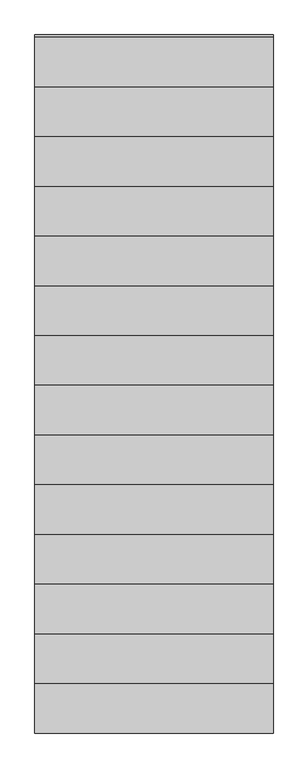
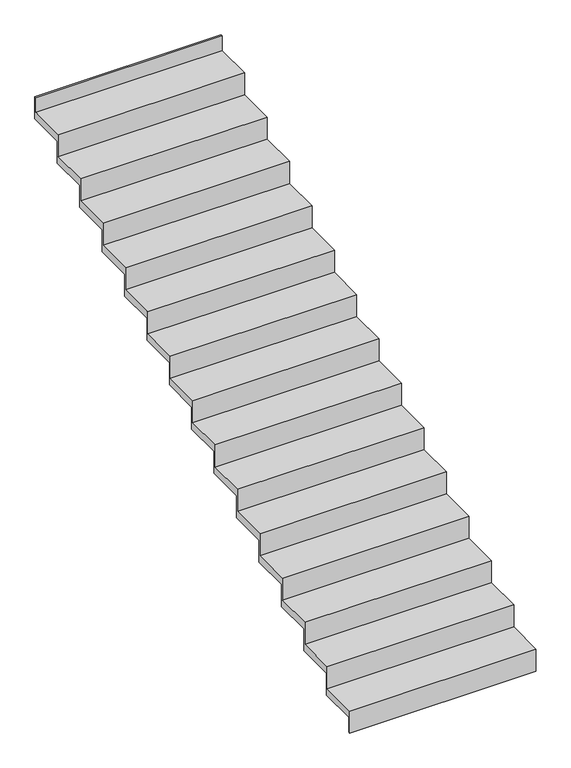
"""IFC4 building model written with IfcOpenShell, lengths in millimetres: stair flight geometry, Run_Stair_Non-Monolithic_50Treadx10Rise_Generic."""

from ifc_helpers import new_model, si_unit, frame, origin, place, context, project, spatial, polyline, outline, extrude, source, transform, mapped, element, save


def stair_flight_bc6c97eb(model_context):
    return source(origin(), model_context, "Body", "SweptSolid", [
        extrude(outline(polyline([(-386265.0026386, 100.0), (-386265.0026386, 0.0), (-386275.0026386, 0.0), (-386275.0026386, 150.0), (-386025.0026386, 150.0), (-386025.0026386, 300.0), (-385775.0026386, 300.0), (-385775.0026386, 450.0), (-385525.0026386, 450.0), (-385525.0026386, 600.0), (-385275.0026386, 600.0), (-385275.0026386, 750.0), (-385025.0026386, 750.0), (-385025.0026386, 900.0), (-384775.0026386, 900.0), (-384775.0026386, 1050.0), (-384525.0026386, 1050.0), (-384525.0026386, 1200.0), (-384275.0026386, 1200.0), (-384275.0026386, 1350.0), (-384025.0026386, 1350.0), (-384025.0026386, 1500.0), (-383775.0026386, 1500.0), (-383775.0026386, 1650.0), (-383525.0026386, 1650.0), (-383525.0026386, 1800.0), (-383275.0026386, 1800.0), (-383275.0026386, 1950.0), (-383025.0026386, 1950.0), (-383025.0026386, 2100.0), (-382775.0026386, 2100.0), (-382775.0026386, 2200.0), (-382765.0026386, 2200.0), (-382765.0026386, 2050.0), (-383015.0026386, 2050.0), (-383015.0026386, 1900.0), (-383265.0026386, 1900.0), (-383265.0026386, 1750.0), (-383515.0026386, 1750.0), (-383515.0026386, 1600.0), (-383765.0026386, 1600.0), (-383765.0026386, 1450.0), (-384015.0026386, 1450.0), (-384015.0026386, 1300.0), (-384265.0026386, 1300.0), (-384265.0026386, 1150.0), (-384515.0026386, 1150.0), (-384515.0026386, 1000.0), (-384765.0026386, 1000.0), (-384765.0026386, 850.0), (-385015.0026386, 850.0), (-385015.0026386, 700.0), (-385265.0026386, 700.0), (-385265.0026386, 550.0), (-385515.0026386, 550.0), (-385515.0026386, 400.0), (-385765.0026386, 400.0), (-385765.0026386, 250.0), (-386015.0026386, 250.0), (-386015.0026386, 100.0), (-386265.0026386, 100.0)])), frame((443147.3206883, 0.0, 0.0), z_axis=(1.0, 0.0, 0.0), x_axis=(0.0, 1.0, 0.0)), (0.0, 0.0, 1.0), 1200.0),
    ])


if __name__ == "__main__":
    model = new_model("IFC4")
    model_context = context("Model", 3, world=origin())
    ifc_project = project(units=[si_unit("LENGTHUNIT", "METRE", prefix="MILLI")], contexts=[model_context])
    site = spatial("IfcSite", under=ifc_project)
    building = spatial("IfcBuilding", under=site)
    placement = place(None, origin())
    stair_flight_shape = stair_flight_bc6c97eb(model_context)
    element("IfcStairFlight", 1, ObjectType="Run_Stair_Non-Monolithic_50Treadx10Rise_Generic", at=placement, inside=building, context=model_context, shape_type="MappedRepresentation", body=[
        mapped(stair_flight_shape, transform((0.0, 0.0, 0.0), x_axis=(1.0, 0.0, 0.0), y_axis=(0.0, 1.0, 0.0), z_axis=(0.0, 0.0, 1.0))),
    ])
    save(model, "model.ifc")
